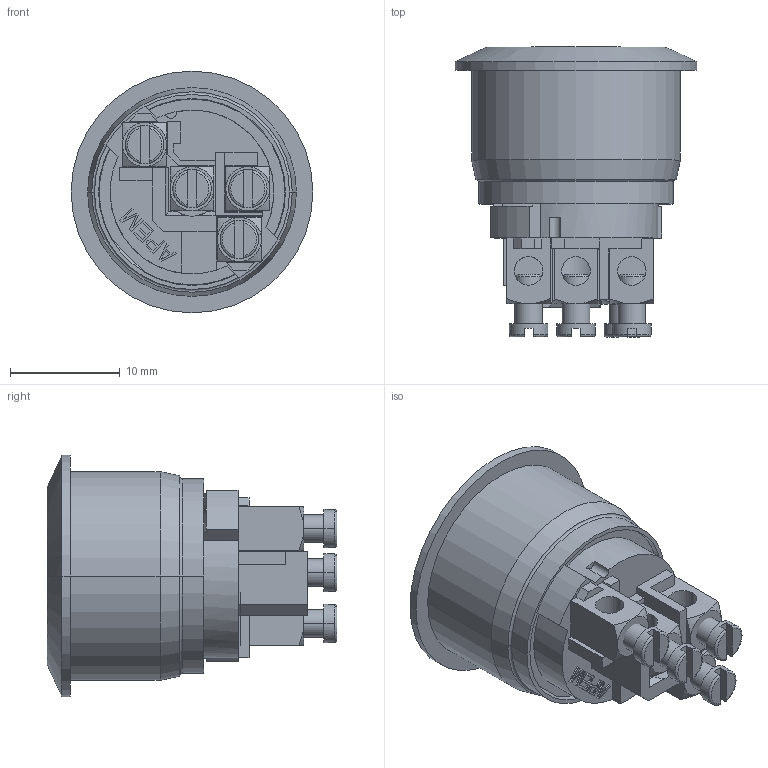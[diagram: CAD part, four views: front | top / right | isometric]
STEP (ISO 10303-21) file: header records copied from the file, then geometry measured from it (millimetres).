
FILE_DESCRIPTION((''),'2;1');
FILE_NAME('AV9SLD9XXX002_SW0002','2009-10-05T',('jlgachon'),(''),'PRO/ENGINEER BY PARAMETRIC TECHNOLOGY CORPORATION, 2007030','PRO/ENGINEER BY PARAMETRIC TECHNOLOGY CORPORATION, 2007030','');
FILE_SCHEMA(('CONFIG_CONTROL_DESIGN'));
Length unit declared in the file: millimetre
Products named in the file (1): AV9SLD9XXX002_SW0002
Bounding box: 22 x 26.38 x 22 mm (x, y, z)
Surface area: 2916 mm2 (no closed solid volume)
Topology: 0 solids, 18 shells, 182 faces, 628 edges, 467 vertices
Faces by surface type: plane 106, cylinder 38, cone 26, torus 10, bspline 2
Entity records: 7361 total; most frequent: CARTESIAN_POINT 1937, DIRECTION 1085, ORIENTED_EDGE 1011, EDGE_CURVE 628, VERTEX_POINT 467, VECTOR 415, LINE 415, AXIS2_PLACEMENT_3D 335
